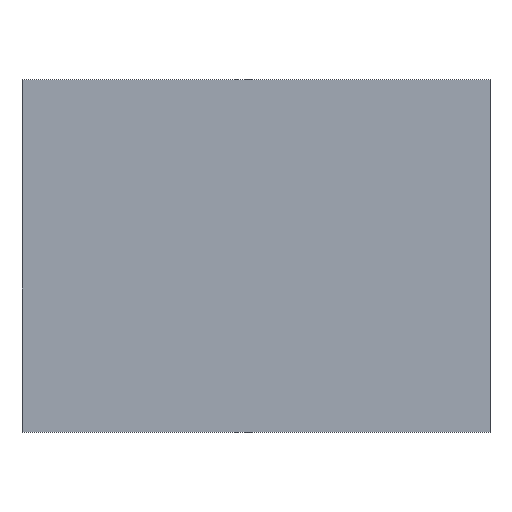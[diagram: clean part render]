
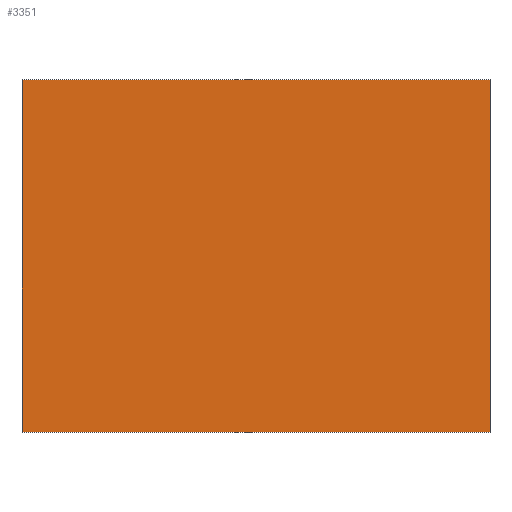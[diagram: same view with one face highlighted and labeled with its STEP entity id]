
A CAD part, top view. The second image highlights one B-rep face of the part: STEP entity #3351.
In plain terms, the highlighted planar face has unit normal (0, 0, 1).
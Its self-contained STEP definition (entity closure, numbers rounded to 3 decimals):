
#3215=CARTESIAN_POINT('Vertex',(101.5,76.5,23.)) ;
#3229=CARTESIAN_POINT('Vertex',(-101.5,76.5,23.)) ;
#3232=CARTESIAN_POINT('Line Origine',(0.,76.5,23.)) ;
#3260=CARTESIAN_POINT('Vertex',(-101.5,-76.5,23.)) ;
#3263=CARTESIAN_POINT('Line Origine',(-101.5,0.,23.)) ;
#3291=CARTESIAN_POINT('Vertex',(101.5,-76.5,23.)) ;
#3294=CARTESIAN_POINT('Line Origine',(0.,-76.5,23.)) ;
#3316=CARTESIAN_POINT('Line Origine',(101.5,0.,23.)) ;
#3340=CARTESIAN_POINT('Axis2P3D Location',(0.,0.,23.)) ;
#3233=DIRECTION('Vector Direction',(1.,0.,0.)) ;
#3264=DIRECTION('Vector Direction',(0.,1.,0.)) ;
#3295=DIRECTION('Vector Direction',(-1.,0.,0.)) ;
#3317=DIRECTION('Vector Direction',(0.,-1.,0.)) ;
#3341=DIRECTION('Axis2P3D Direction',(0.,0.,1.)) ;
#3342=DIRECTION('Axis2P3D XDirection',(1.,0.,0.)) ;
#3343=AXIS2_PLACEMENT_3D('Plane Axis2P3D',#3340,#3341,#3342) ;
#3346=ORIENTED_EDGE('',*,*,#3236,.T.) ;
#3347=ORIENTED_EDGE('',*,*,#3267,.T.) ;
#3348=ORIENTED_EDGE('',*,*,#3298,.T.) ;
#3349=ORIENTED_EDGE('',*,*,#3320,.T.) ;
#3234=VECTOR('Line Direction',#3233,1.) ;
#3265=VECTOR('Line Direction',#3264,1.) ;
#3296=VECTOR('Line Direction',#3295,1.) ;
#3318=VECTOR('Line Direction',#3317,1.) ;
#3351=ADVANCED_FACE('cavity',(#3350),#3344,.T.) ;
#3236=EDGE_CURVE('',#3216,#3230,#3235,.F.) ;
#3267=EDGE_CURVE('',#3230,#3261,#3266,.F.) ;
#3298=EDGE_CURVE('',#3261,#3292,#3297,.F.) ;
#3320=EDGE_CURVE('',#3292,#3216,#3319,.F.) ;
#3345=EDGE_LOOP('',(#3346,#3347,#3348,#3349)) ;
#3350=FACE_OUTER_BOUND('',#3345,.T.) ;
#3235=LINE('Line',#3232,#3234) ;
#3266=LINE('Line',#3263,#3265) ;
#3297=LINE('Line',#3294,#3296) ;
#3319=LINE('Line',#3316,#3318) ;
#3344=PLANE('Plane',#3343) ;
#3216=VERTEX_POINT('',#3215) ;
#3230=VERTEX_POINT('',#3229) ;
#3261=VERTEX_POINT('',#3260) ;
#3292=VERTEX_POINT('',#3291) ;
